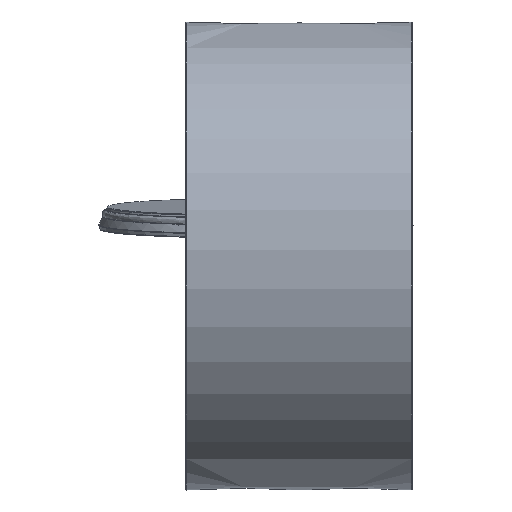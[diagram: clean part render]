
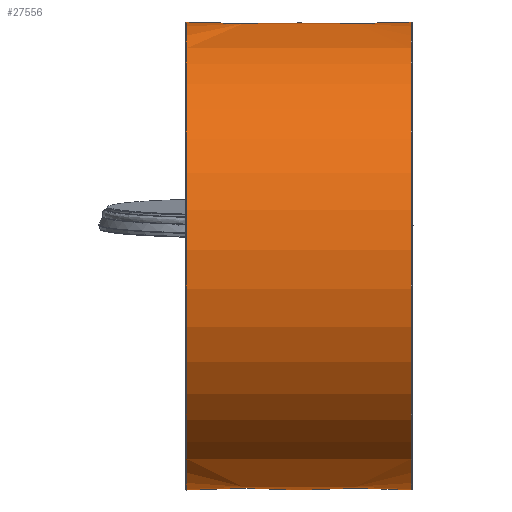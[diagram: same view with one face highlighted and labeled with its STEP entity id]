
A CAD part, left-side view. The second image highlights one B-rep face of the part: STEP entity #27556.
In plain terms, the highlighted free-form (B-spline) face has degree [2, 1] with [7, 2] control points.
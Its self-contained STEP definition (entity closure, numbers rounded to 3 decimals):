
#26301=CARTESIAN_POINT('V85',(144.5,
   150.,0.0));
#26302=VERTEX_POINT('V85',#26301);
#26326=CARTESIAN_POINT('E131',(144.5,
   150.,0.0));
#26327=CARTESIAN_POINT('E131',(144.5,
   150.,-259.808));
#26328=CARTESIAN_POINT('E131',(144.5,
   -75.,-129.904));
#26329=CARTESIAN_POINT('E131',(144.5,
   -300.,0.));
#26330=CARTESIAN_POINT('E131',(144.5,
   -75.,129.904));
#26331=CARTESIAN_POINT('E131',(144.5,
   150.,259.808));
#26332=CARTESIAN_POINT('E131',(144.5,
   150.,0.0));
#26340=(BOUNDED_CURVE()B_SPLINE_CURVE(2,(#26326,#26327,#26328,
   #26329,#26330,#26331,#26332),.CIRCULAR_ARC.,.T.,.U.)
   B_SPLINE_CURVE_WITH_KNOTS((3,2,2,3),(0.0,3.608,
   7.217,10.825),.UNSPECIFIED.)CURVE()
   GEOMETRIC_REPRESENTATION_ITEM()RATIONAL_B_SPLINE_CURVE((1.0,
   0.5,1.0,0.5,1.0,0.5,1.0)
   )REPRESENTATION_ITEM('E131'));
#26341=EDGE_CURVE('E131',#26302,#26302,#26340,.T.);
#27380=CARTESIAN_POINT('V89',(131.038,
   150.,0.));
#27381=VERTEX_POINT('V89',#27380);
#27382=CARTESIAN_POINT('V3',(131.038,132.5,
   70.312));
#27383=VERTEX_POINT('V3',#27382);
#27384=CARTESIAN_POINT('E139',(131.038,
   150.,0.));
#27385=CARTESIAN_POINT('E139',(131.038,
   150.,37.334));
#27386=CARTESIAN_POINT('E139',(131.038,
   132.5,70.312));
#27394=(BOUNDED_CURVE()B_SPLINE_CURVE(2,(#27384,#27385,#27386),
   .CIRCULAR_ARC.,.F.,.U.)CURVE()GEOMETRIC_REPRESENTATION_ITEM()
   QUASI_UNIFORM_CURVE()RATIONAL_B_SPLINE_CURVE((1.0,
   0.874,0.812))REPRESENTATION_ITEM('E139')
   );
#27395=EDGE_CURVE('E139',#27381,#27383,#27394,.T.);
#27397=CARTESIAN_POINT('V2',(131.038,132.5,
   -70.312));
#27398=VERTEX_POINT('V2',#27397);
#27404=CARTESIAN_POINT('E137',(131.038,
   132.5,-70.312));
#27405=CARTESIAN_POINT('E137',(131.038,150.0,
   -37.334));
#27406=CARTESIAN_POINT('E137',(131.038,
   150.,0.));
#27414=(BOUNDED_CURVE()B_SPLINE_CURVE(2,(#27404,#27405,#27406),
   .CIRCULAR_ARC.,.F.,.U.)CURVE()GEOMETRIC_REPRESENTATION_ITEM()
   QUASI_UNIFORM_CURVE()RATIONAL_B_SPLINE_CURVE((0.812,
   0.874,1.0))REPRESENTATION_ITEM('E137'));
#27415=EDGE_CURVE('E137',#27398,#27381,#27414,.T.);
#27425=CARTESIAN_POINT('V1',(68.962,132.5,
   -70.312));
#27426=VERTEX_POINT('V1',#27425);
#27427=CARTESIAN_POINT('E1',(68.963,132.5,
   -70.312));
#27428=CARTESIAN_POINT('E1',(131.037,132.5,
   -70.312));
#27429=QUASI_UNIFORM_CURVE('E1',1,(#27427,#27428),.POLYLINE_FORM.,
   .F.,.U.);
#27430=EDGE_CURVE('E1',#27426,#27398,#27429,.T.);
#27433=CARTESIAN_POINT('V4',(68.962,132.5,
   70.312));
#27434=VERTEX_POINT('V4',#27433);
#27435=CARTESIAN_POINT('E3',(131.037,132.5,
   70.312));
#27436=CARTESIAN_POINT('E3',(68.963,132.5,
   70.312));
#27437=QUASI_UNIFORM_CURVE('E3',1,(#27435,#27436),.POLYLINE_FORM.,
   .F.,.U.);
#27438=EDGE_CURVE('E3',#27383,#27434,#27437,.T.);
#27462=CARTESIAN_POINT('V88',(68.962,150.,
   0.));
#27463=VERTEX_POINT('V88',#27462);
#27464=CARTESIAN_POINT('E136',(68.962,
   150.,0.));
#27465=CARTESIAN_POINT('E136',(68.962,
   150.,-37.334));
#27466=CARTESIAN_POINT('E136',(68.962,
   132.5,-70.312));
#27474=(BOUNDED_CURVE()B_SPLINE_CURVE(2,(#27464,#27465,#27466),
   .CIRCULAR_ARC.,.F.,.U.)CURVE()GEOMETRIC_REPRESENTATION_ITEM()
   QUASI_UNIFORM_CURVE()RATIONAL_B_SPLINE_CURVE((1.0,
   0.874,0.812))REPRESENTATION_ITEM('E136')
   );
#27475=EDGE_CURVE('E136',#27463,#27426,#27474,.T.);
#27478=CARTESIAN_POINT('E140',(68.962,
   132.5,70.312));
#27479=CARTESIAN_POINT('E140',(68.962,150.0,
   37.334));
#27480=CARTESIAN_POINT('E140',(68.962,
   150.,0.));
#27488=(BOUNDED_CURVE()B_SPLINE_CURVE(2,(#27478,#27479,#27480),
   .CIRCULAR_ARC.,.F.,.U.)CURVE()GEOMETRIC_REPRESENTATION_ITEM()
   QUASI_UNIFORM_CURVE()RATIONAL_B_SPLINE_CURVE((0.812,
   0.874,1.0))REPRESENTATION_ITEM('E140'));
#27489=EDGE_CURVE('E140',#27434,#27463,#27488,.T.);
#27494=CARTESIAN_POINT('F67',(0.5,150.0,0.0));
#27495=CARTESIAN_POINT('F67',(0.5,150.0,
   259.808));
#27496=CARTESIAN_POINT('F67',(0.5,-75.,
   129.904));
#27497=CARTESIAN_POINT('F67',(0.5,-300.,
   0.));
#27498=CARTESIAN_POINT('F67',(0.5,-75.,
   -129.904));
#27499=CARTESIAN_POINT('F67',(0.5,150.,
   -259.808));
#27500=CARTESIAN_POINT('F67',(0.5,150.0,0.0));
#27501=CARTESIAN_POINT('F67',(144.5,
   150.,0.0));
#27502=CARTESIAN_POINT('F67',(144.5,
   150.,259.808));
#27503=CARTESIAN_POINT('F67',(144.5,
   -75.,129.904));
#27504=CARTESIAN_POINT('F67',(144.5,
   -300.,0.));
#27505=CARTESIAN_POINT('F67',(144.5,
   -75.,-129.904));
#27506=CARTESIAN_POINT('F67',(144.5,
   150.,-259.808));
#27507=CARTESIAN_POINT('F67',(144.5,
   150.,0.0));
#27515=(BOUNDED_SURFACE()B_SPLINE_SURFACE(2,1,((#27494,#27501),(
   #27495,#27502),(#27496,#27503),(#27497,#27504),(#27498,
   #27505),(#27499,#27506),(#27500,#27507)),.CYLINDRICAL_SURF.,
   .T.,.F.,.U.)B_SPLINE_SURFACE_WITH_KNOTS((3,2,2,3),(2,2),(0.0,
   3.608,7.217,10.825),(0.0,1.0),
   .UNSPECIFIED.)GEOMETRIC_REPRESENTATION_ITEM()
   RATIONAL_B_SPLINE_SURFACE(((1.0,1.0),(0.5,
   0.5),(1.0,1.0),(0.5,
   0.5),(1.0,1.0),(0.5,
   0.5),(1.0,1.0)))REPRESENTATION_ITEM('F67')SURFACE(
   ));
#27516=ORIENTED_EDGE('E136',*,*,#27475,.F.);
#27517=CARTESIAN_POINT('V86',(0.5,150.0,0.0));
#27518=VERTEX_POINT('V86',#27517);
#27519=CARTESIAN_POINT('E141',(68.962,
   150.,0.0));
#27520=CARTESIAN_POINT('E141',(0.5,150.0,0.0));
#27521=B_SPLINE_CURVE_WITH_KNOTS('E141',1,(#27519,#27520),
   .POLYLINE_FORM.,.F.,.U.,(2,2),(0.525,1.0),
   .UNSPECIFIED.);
#27522=EDGE_CURVE('E141',#27463,#27518,#27521,.T.);
#27523=ORIENTED_EDGE('E141',*,*,#27522,.T.);
#27524=CARTESIAN_POINT('E135',(0.5,150.0,0.0));
#27525=CARTESIAN_POINT('E135',(0.5,150.,
   -259.808));
#27526=CARTESIAN_POINT('E135',(0.5,-75.,
   -129.904));
#27527=CARTESIAN_POINT('E135',(0.5,
   -300.,0.));
#27528=CARTESIAN_POINT('E135',(0.5,-75.,
   129.904));
#27529=CARTESIAN_POINT('E135',(0.5,150.0,
   259.808));
#27530=CARTESIAN_POINT('E135',(0.5,150.0,0.0));
#27538=(BOUNDED_CURVE()B_SPLINE_CURVE(2,(#27524,#27525,#27526,
   #27527,#27528,#27529,#27530),.CIRCULAR_ARC.,.T.,.U.)
   B_SPLINE_CURVE_WITH_KNOTS((3,2,2,3),(0.0,733.622,
   1467.244,2200.867),.UNSPECIFIED.)CURVE()
   GEOMETRIC_REPRESENTATION_ITEM()RATIONAL_B_SPLINE_CURVE((1.0,
   0.5,1.0,0.5,1.0,0.5,1.0)
   )REPRESENTATION_ITEM('E135'));
#27539=EDGE_CURVE('E135',#27518,#27518,#27538,.T.);
#27540=ORIENTED_EDGE('E135',*,*,#27539,.T.);
#27541=ORIENTED_EDGE('E141',*,*,#27522,.F.);
#27542=ORIENTED_EDGE('F68',*,*,#27489,.F.);
#27543=ORIENTED_EDGE('E3',*,*,#27438,.F.);
#27544=ORIENTED_EDGE('E139',*,*,#27395,.F.);
#27545=CARTESIAN_POINT('E138',(144.5,
   150.,0.0));
#27546=CARTESIAN_POINT('E138',(131.038,
   150.,0.0));
#27547=B_SPLINE_CURVE_WITH_KNOTS('E138',1,(#27545,#27546),
   .POLYLINE_FORM.,.F.,.U.,(2,2),(0.0,0.093),
   .UNSPECIFIED.);
#27548=EDGE_CURVE('E138',#26302,#27381,#27547,.T.);
#27549=ORIENTED_EDGE('E138',*,*,#27548,.F.);
#27550=ORIENTED_EDGE('F65',*,*,#26341,.F.);
#27551=ORIENTED_EDGE('E138',*,*,#27548,.T.);
#27552=ORIENTED_EDGE('F69',*,*,#27415,.F.);
#27553=ORIENTED_EDGE('E1',*,*,#27430,.F.);
#27554=EDGE_LOOP('F67',(#27516,#27523,#27540,#27541,#27542,#27543,
   #27544,#27549,#27550,#27551,#27552,#27553));
#27555=FACE_OUTER_BOUND('F67',#27554,.F.);
#27556=ADVANCED_FACE('F67',(#27555),#27515,.T.);
